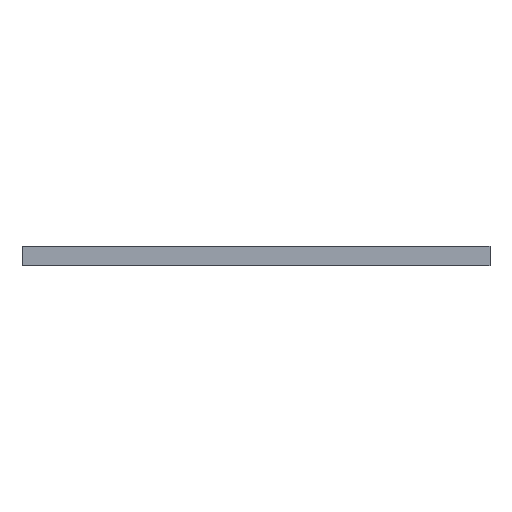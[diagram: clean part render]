
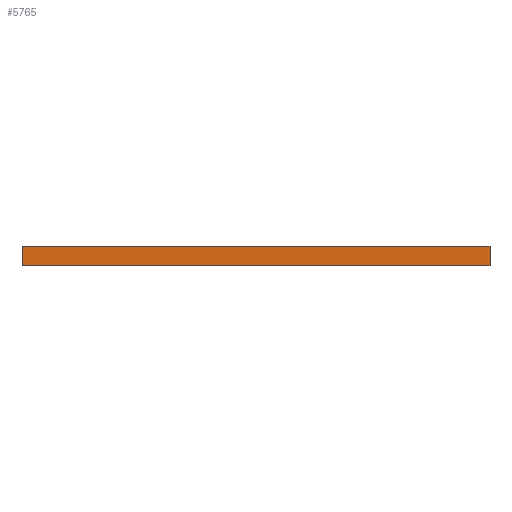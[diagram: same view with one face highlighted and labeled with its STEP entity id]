
A CAD part, front view. The second image highlights one B-rep face of the part: STEP entity #5765.
In plain terms, the highlighted planar face has unit normal (0, -1, 0).
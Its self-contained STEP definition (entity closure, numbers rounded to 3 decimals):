
#1316 = CARTESIAN_POINT ( 'NONE',  ( 0., 0., 0. ) ) ;
#1324 = ORIENTED_EDGE ( 'NONE', *, *, #13507, .F. ) ;
#1361 = VERTEX_POINT ( 'NONE', #6368 ) ;
#1459 = VERTEX_POINT ( 'NONE', #8995 ) ;
#1479 = CARTESIAN_POINT ( 'NONE',  ( -12., 0., 0.5 ) ) ;
#1553 = VERTEX_POINT ( 'NONE', #1316 ) ;
#2202 = DIRECTION ( 'NONE',  ( -1., 0., 0. ) ) ;
#2447 = EDGE_CURVE ( 'NONE', #1459, #1361, #11154, .T. ) ;
#2809 = EDGE_LOOP ( 'NONE', ( #13980, #7621, #1324, #8949 ) ) ;
#2990 = EDGE_CURVE ( 'NONE', #9398, #1553, #9656, .T. ) ;
#3949 = VECTOR ( 'NONE', #8345, 1000. ) ;
#5100 = VECTOR ( 'NONE', #6662, 1000. ) ;
#5574 = VECTOR ( 'NONE', #7519, 1000. ) ;
#5765 = ADVANCED_FACE ( 'NONE', ( #11572 ), #10336, .F. ) ;
#6368 = CARTESIAN_POINT ( 'NONE',  ( -12., 0., 0. ) ) ;
#6424 = LINE ( 'NONE', #12527, #5100 ) ;
#6662 = DIRECTION ( 'NONE',  ( 1., 0., 0. ) ) ;
#6710 = CARTESIAN_POINT ( 'NONE',  ( -12., 0., 0.5 ) ) ;
#6959 = LINE ( 'NONE', #11667, #3949 ) ;
#7060 = AXIS2_PLACEMENT_3D ( 'NONE', #6710, #7951, #2202 ) ;
#7519 = DIRECTION ( 'NONE',  ( 0., 0., -1. ) ) ;
#7621 = ORIENTED_EDGE ( 'NONE', *, *, #2990, .F. ) ;
#7931 = EDGE_CURVE ( 'NONE', #1361, #1553, #6424, .T. ) ;
#7951 = DIRECTION ( 'NONE',  ( 0., 1., 0. ) ) ;
#8345 = DIRECTION ( 'NONE',  ( 1., 0., 0. ) ) ;
#8949 = ORIENTED_EDGE ( 'NONE', *, *, #2447, .T. ) ;
#8995 = CARTESIAN_POINT ( 'NONE',  ( -12., 0., 0.5 ) ) ;
#9398 = VERTEX_POINT ( 'NONE', #14026 ) ;
#9656 = LINE ( 'NONE', #12971, #12968 ) ;
#10336 = PLANE ( 'NONE',  #7060 ) ;
#11154 = LINE ( 'NONE', #1479, #5574 ) ;
#11572 = FACE_OUTER_BOUND ( 'NONE', #2809, .T. ) ;
#11667 = CARTESIAN_POINT ( 'NONE',  ( -12., 0., 0.5 ) ) ;
#12049 = DIRECTION ( 'NONE',  ( 0., 0., -1. ) ) ;
#12527 = CARTESIAN_POINT ( 'NONE',  ( -12., 0., 0. ) ) ;
#12968 = VECTOR ( 'NONE', #12049, 1000. ) ;
#12971 = CARTESIAN_POINT ( 'NONE',  ( 0., 0., 0.5 ) ) ;
#13507 = EDGE_CURVE ( 'NONE', #1459, #9398, #6959, .T. ) ;
#13980 = ORIENTED_EDGE ( 'NONE', *, *, #7931, .T. ) ;
#14026 = CARTESIAN_POINT ( 'NONE',  ( 0., 0., 0.5 ) ) ;
